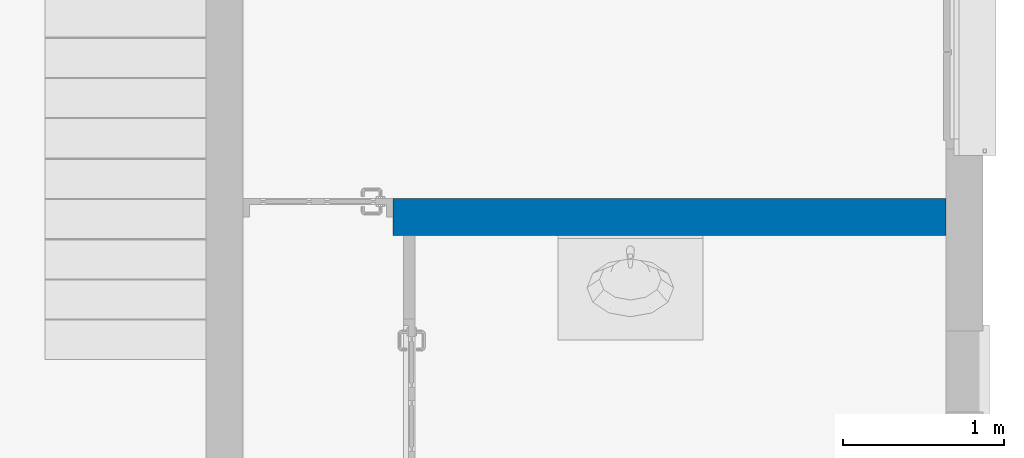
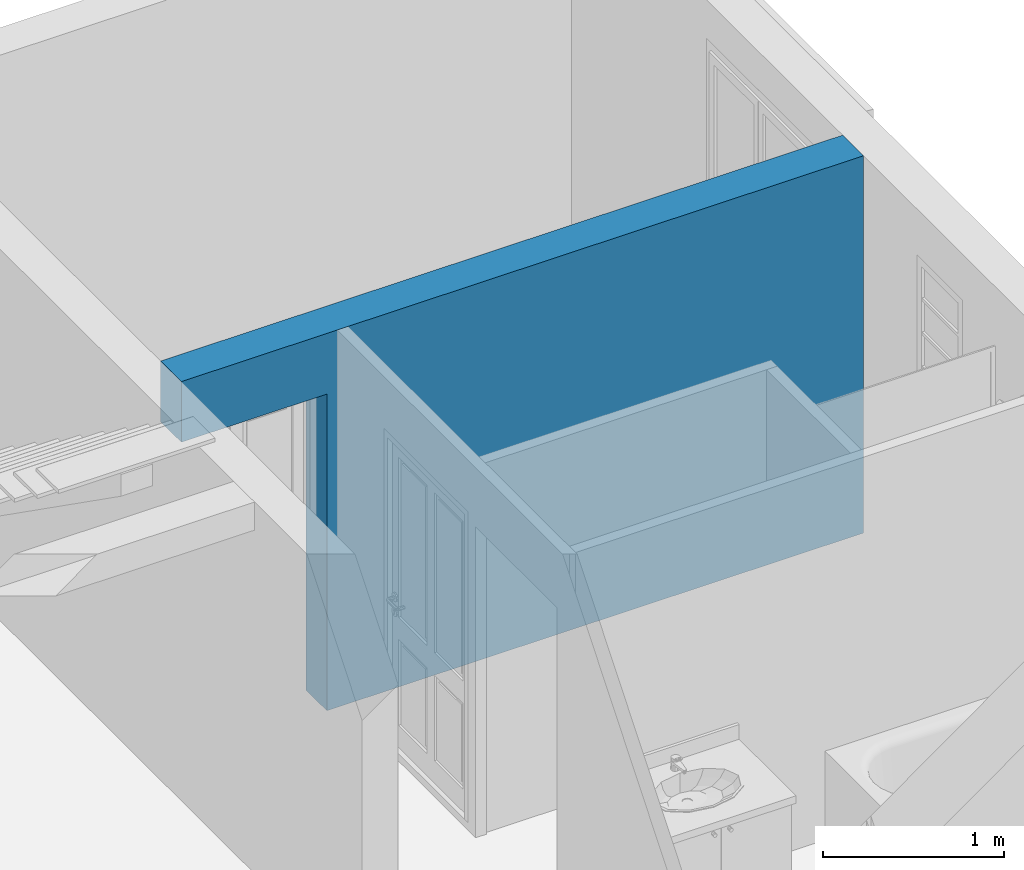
# One storey, part 6 of 17: 1 wall, 1 opening.
"""IFC2X3 building model written with IfcOpenShell, lengths in metres."""

import ifcopenshell
import ifcopenshell.guid

model = None  # the IFC model being written
_history = None  # IfcOwnerHistory: only IFC2X3 demands one
_inside = {}  # id of a spatial element -> (the spatial element, [elements in it])
_under = {}  # id of a project, library or spatial element -> (it, [spatial elements below it])
_declared = {}  # id of a project -> (the project, [libraries it declares])
_typed = {}  # id of a type object -> (the type object, [elements of that type])
_made_of = {}  # id of a material, layer set ... -> (it, [elements and type objects made of it])


def new_model(schema):
    """Start an empty IFC model of exactly this schema.

    Asked for "IFC4X3", IfcOpenShell would pick the latest addendum, in which some entities
    have other attributes; the version numbers below select the first issue.
    IFC2X3 requires an IfcOwnerHistory on every rooted entity: one is made here for all.
    """
    global model, _history
    if schema == "IFC4X3":
        model = ifcopenshell.file(schema_version=(4, 3, 0, 0))
    else:
        model = ifcopenshell.file(schema=schema)
    _inside.clear()
    _under.clear()
    _declared.clear()
    _typed.clear()
    _made_of.clear()
    _history = None
    if model.schema == "IFC2X3":
        org = make("IfcOrganization", Name="unknown")
        user = make(
            "IfcPersonAndOrganization",
            ThePerson=make("IfcPerson", FamilyName="unknown"),
            TheOrganization=org,
        )
        app = make(
            "IfcApplication",
            ApplicationDeveloper=org,
            Version="unknown",
            ApplicationFullName="unknown",
            ApplicationIdentifier="unknown",
        )
        _history = make(
            "IfcOwnerHistory",
            OwningUser=user,
            OwningApplication=app,
            ChangeAction="ADDED",
            CreationDate=0,
        )
    return model


def make(cls, **values):
    """One entity of the class cls with the attributes given. An attribute that is None is left unset."""
    return model.create_entity(
        cls, **{name: value for name, value in values.items() if value is not None}
    )


def entity(cls, *values):
    """Any entity or typed value of the class cls, its attributes in the order of the schema. None: left unset."""
    e = model.create_entity(cls)
    for i, value in enumerate(values):
        if value is not None:
            e[i] = value
    return e


def rooted(cls, **values):
    """An entity with a GlobalId (a new one), such as an element, a storey or a relation."""
    return make(cls, GlobalId=ifcopenshell.guid.new(), OwnerHistory=_history, **values)


def si_unit(unit_type, name, prefix=None):
    """IfcSIUnit, for example si_unit("LENGTHUNIT", "METRE", prefix="MILLI")."""
    return make("IfcSIUnit", UnitType=unit_type, Prefix=prefix, Name=name)


def converted_unit(unit_type, name, factor, base, dimensions=None, offset=None):
    """IfcConversionBasedUnit, such as the inch: factor (a typed value) times the base unit."""
    return make(
        "IfcConversionBasedUnit"
        if offset is None
        else "IfcConversionBasedUnitWithOffset",
        ConversionOffset=offset,
        Dimensions=None
        if dimensions is None
        else entity("IfcDimensionalExponents", *dimensions),
        UnitType=unit_type,
        Name=name,
        ConversionFactor=make(
            "IfcMeasureWithUnit", ValueComponent=factor, UnitComponent=base
        ),
    )


def derived_unit(unit_type, elements):
    """IfcDerivedUnit: a product of units, each with its exponent."""
    return make(
        "IfcDerivedUnit",
        Elements=[
            make("IfcDerivedUnitElement", Unit=unit, Exponent=power)
            for unit, power in elements
        ],
        UnitType=unit_type,
    )


def money_unit(currency):
    """IfcMonetaryUnit."""
    return make("IfcMonetaryUnit", Currency=currency)


def assignment(units):
    """IfcUnitAssignment: the units of a project."""
    return None if units is None else make("IfcUnitAssignment", Units=units)


def point(xyz):
    """IfcCartesianPoint."""
    return None if xyz is None else make("IfcCartesianPoint", Coordinates=xyz)


def direction(xyz):
    """IfcDirection."""
    return None if xyz is None else make("IfcDirection", DirectionRatios=xyz)


def frame(location, z_axis=None, x_axis=None):
    """IfcAxis2Placement3D, a coordinate frame: its origin and axes. An axis left out is left unset."""
    return make(
        "IfcAxis2Placement3D",
        Location=point(location),
        Axis=direction(z_axis),
        RefDirection=direction(x_axis),
    )


def frame_2d(location, x_axis=None):
    """IfcAxis2Placement2D, a coordinate frame in the plane: its origin and x axis."""
    return make(
        "IfcAxis2Placement2D", Location=point(location), RefDirection=direction(x_axis)
    )


def origin_with_axes():
    """The frame at (0, 0, 0) with the z axis (0, 0, 1) and the x axis (1, 0, 0) written out."""
    return frame((0.0, 0.0, 0.0), z_axis=(0.0, 0.0, 1.0), x_axis=(1.0, 0.0, 0.0))


def origin_2d_with_axis():
    """The frame at (0, 0) in the plane with the x axis (1, 0) written out."""
    return frame_2d((0.0, 0.0), x_axis=(1.0, 0.0))


def place(relative_to, where):
    """IfcLocalPlacement: puts the frame where relative to a parent placement (None: the world)."""
    return make(
        "IfcLocalPlacement", PlacementRelTo=relative_to, RelativePlacement=where
    )


def context(
    kind, dimensions, precision=None, world=None, true_north=None, identifier=None
):
    """IfcGeometricRepresentationContext, for example the 3D "Model" context."""
    return make(
        "IfcGeometricRepresentationContext",
        ContextIdentifier=identifier,
        ContextType=kind,
        CoordinateSpaceDimension=dimensions,
        Precision=precision,
        WorldCoordinateSystem=world,
        TrueNorth=true_north,
    )


def subcontext(parent, identifier, kind, view, scale=None):
    """IfcGeometricRepresentationSubContext, for example "Body" below "Model"."""
    return make(
        "IfcGeometricRepresentationSubContext",
        ContextIdentifier=identifier,
        ContextType=kind,
        ParentContext=parent,
        TargetScale=scale,
        TargetView=view,
    )


def project(units=None, contexts=None):
    """IfcProject with its units and contexts."""
    return rooted(
        "IfcProject",
        Name="project",
        RepresentationContexts=contexts,
        UnitsInContext=assignment(units),
    )


def spatial(cls, under=None, at=None, **own):
    """A site, building, storey or space (cls), placed at a placement, below another one or the project."""
    s = rooted(cls, ObjectPlacement=at, **own)
    if under is not None:
        _under.setdefault(under.id(), (under, []))[1].append(s)
    return s


def polyline(points):
    """IfcPolyline through the points."""
    return make("IfcPolyline", Points=[point(p) for p in points])


def profile(cls, at=None, kind="AREA", **sizes):
    """A parametric profile (cls). Its sizes go by their IFC names, for example OverallWidth=200.0."""
    return make(cls, ProfileType=kind, Position=at, **sizes)


def rectangle(**sizes):
    """IfcRectangleProfileDef."""
    return profile("IfcRectangleProfileDef", **sizes)


def outline(outer, holes=None, kind="AREA"):
    """IfcArbitraryClosedProfileDef: a profile drawn as a closed curve; with holes, ...WithVoids."""
    if holes is None:
        return make("IfcArbitraryClosedProfileDef", ProfileType=kind, OuterCurve=outer)
    return make(
        "IfcArbitraryProfileDefWithVoids",
        ProfileType=kind,
        OuterCurve=outer,
        InnerCurves=holes,
    )


def extrude(swept, where, along, depth):
    """IfcExtrudedAreaSolid: the profile swept, set in the frame where, extruded along a direction by depth."""
    return make(
        "IfcExtrudedAreaSolid",
        SweptArea=swept,
        Position=where,
        ExtrudedDirection=direction(along),
        Depth=depth,
    )


def boolean(op, a, b):
    """IfcBooleanResult of two solids."""
    return make("IfcBooleanResult", Operator=op, FirstOperand=a, SecondOperand=b)


def faces_of(points, faces, orient=None, outer=None):
    """IfcFace entities. A face is a list of loops; a loop is a list of indices into points, from 0.

    orient and outer hold one flag for each loop. By default every Orientation is true, the
    first loop of a face is its IfcFaceOuterBound and the others are IfcFaceBound.
    """
    made = []
    for i, loops in enumerate(faces):
        bounds = []
        for j, loop in enumerate(loops):
            is_outer = j == 0 if outer is None else outer[i][j]
            bounds.append(
                make(
                    "IfcFaceOuterBound" if is_outer else "IfcFaceBound",
                    Bound=make("IfcPolyLoop", Polygon=[points[k] for k in loop]),
                    Orientation=True if orient is None else orient[i][j],
                )
            )
        made.append(make("IfcFace", Bounds=bounds))
    return made


def faceted_brep(points, faces, orient=None, outer=None, voids=None):
    """IfcFacetedBrep: a solid bounded by flat faces; with voids (closed shells), ...WithVoids."""
    shared = [point(p) for p in points]
    hull = make("IfcClosedShell", CfsFaces=faces_of(shared, faces, orient, outer))
    if voids is None:
        return make("IfcFacetedBrep", Outer=hull)
    return make(
        "IfcFacetedBrepWithVoids",
        Outer=hull,
        Voids=[
            make(cls, CfsFaces=faces_of(shared, fs, o, b)) for cls, fs, o, b in voids
        ],
    )


def shape(context_of_items, identifier, shape_type, items):
    """IfcShapeRepresentation: the items that make up one representation, for example the "Body"."""
    return make(
        "IfcShapeRepresentation",
        ContextOfItems=context_of_items,
        RepresentationIdentifier=identifier,
        RepresentationType=shape_type,
        Items=items,
    )


def material(Name=None, Category=None):
    """IfcMaterial."""
    return make("IfcMaterial", Name=Name, Category=Category)


def made_of(thing, what):
    """Note that an element or type object is made of a material, layer set ...; save() writes the relation."""
    if what is not None:
        _made_of.setdefault(what.id(), (what, []))[1].append(thing)
    return thing


def type_object(cls, material=None, **own):
    """A type object (cls), such as IfcWallType, which elements share."""
    return made_of(rooted(cls, **own), material)


def element(
    cls,
    number,
    at=None,
    inside=None,
    cuts=None,
    type_object=None,
    material=None,
    context=None,
    identifier="Body",
    shape_type=None,
    held_by="IfcProductDefinitionShape",
    body=None,
    shapes=None,
    **own,
):
    """One element of the class cls, such as IfcWall. Its Tag is "e" and its number.

    at: its placement. inside: the storey or other place that contains it. cuts: it is an
    opening in that element (IfcRelVoidsElement). A single representation is given by context,
    identifier, shape_type and body (its items); several are given by shapes. held_by: the class
    of the entity that holds the representations. save() writes the other relations.
    """
    e = rooted(cls, Tag="e%d" % number, ObjectPlacement=at, **own)
    if body is not None:
        shapes = [shape(context, identifier, shape_type, body)]
    if shapes is not None:
        e.Representation = make(held_by, Representations=shapes)
    if inside is not None:
        _inside.setdefault(inside.id(), (inside, []))[1].append(e)
    if cuts is not None:
        rooted(
            "IfcRelVoidsElement", RelatingBuildingElement=cuts, RelatedOpeningElement=e
        )
    if type_object is not None:
        _typed.setdefault(type_object.id(), (type_object, []))[1].append(e)
    return made_of(e, material)


def aggregate(whole, parts):
    """IfcRelAggregates: a whole, such as a stair, and the parts it consists of."""
    return rooted("IfcRelAggregates", RelatingObject=whole, RelatedObjects=parts)


def save(model, path):
    """Write the relations noted so far, then the file.

    IfcRelAggregates (storeys below a building ...), IfcRelContainedInSpatialStructure (elements
    in a storey), IfcRelDefinesByType, IfcRelAssociatesMaterial and IfcRelDeclares: one each for
    every whole, place, type object, material and project.
    """
    for whole, parts in _under.values():
        aggregate(whole, parts)
    for where, things in _inside.values():
        rooted(
            "IfcRelContainedInSpatialStructure",
            RelatedElements=things,
            RelatingStructure=where,
        )
    for kind, things in _typed.values():
        rooted("IfcRelDefinesByType", RelatedObjects=things, RelatingType=kind)
    for what, things in _made_of.values():
        rooted("IfcRelAssociatesMaterial", RelatedObjects=things, RelatingMaterial=what)
    for by, libraries in _declared.values():
        rooted("IfcRelDeclares", RelatingContext=by, RelatedDefinitions=libraries)
    model.write(path)


model = new_model("IFC2X3")

# Units and contexts
model_context = context("Model", 3, precision=1e-05, world=origin_with_axes(), true_north=direction((0.0, 1.0)))
body_context = subcontext(model_context, "Body", "Model", "MODEL_VIEW")
ifc_project = project(units=[si_unit("LENGTHUNIT", "METRE"), si_unit("AREAUNIT", "SQUARE_METRE"), si_unit("VOLUMEUNIT", "CUBIC_METRE"), converted_unit("PLANEANGLEUNIT", "DEGREE", entity("IfcPlaneAngleMeasure", 0.0174532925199), si_unit("PLANEANGLEUNIT", "RADIAN"), dimensions=[0, 0, 0, 0, 0, 0, 0]), si_unit("SOLIDANGLEUNIT", "STERADIAN"), money_unit("CHF"), converted_unit("TIMEUNIT", "Year", entity("IfcTimeMeasure", 31556926.0), si_unit("TIMEUNIT", "SECOND"), dimensions=[0, 0, 1, 0, 0, 0, 0]), si_unit("MASSUNIT", "GRAM", prefix="KILO"), si_unit("THERMODYNAMICTEMPERATUREUNIT", "DEGREE_CELSIUS"), si_unit("LUMINOUSINTENSITYUNIT", "LUMEN"), si_unit("ENERGYUNIT", "JOULE", prefix="MEGA"), derived_unit("THERMALCONDUCTANCEUNIT", [(si_unit("POWERUNIT", "WATT"), 1), (si_unit("LENGTHUNIT", "METRE"), -1), (si_unit("THERMODYNAMICTEMPERATUREUNIT", "KELVIN"), -1)]), derived_unit("SPECIFICHEATCAPACITYUNIT", [(si_unit("ENERGYUNIT", "JOULE"), 1), (si_unit("MASSUNIT", "GRAM", prefix="KILO"), -1), (si_unit("THERMODYNAMICTEMPERATUREUNIT", "KELVIN"), -1)]), derived_unit("MASSDENSITYUNIT", [(si_unit("MASSUNIT", "GRAM", prefix="KILO"), 1), (si_unit("VOLUMEUNIT", "CUBIC_METRE"), -1)])], contexts=[model_context])

# Site, building, storey
site_placement = place(None, origin_with_axes())
site = spatial("IfcSite", under=ifc_project, at=site_placement, Name="Site", CompositionType="ELEMENT")
building_placement = place(site_placement, origin_with_axes())
building = spatial("IfcBuilding", under=site, at=building_placement, Name="Bâtiment", CompositionType="ELEMENT")
storey_placement = place(building_placement, frame((0.0, 0.0, 3.0), z_axis=(0.0, 0.0, 1.0), x_axis=(1.0, 0.0, 0.0)))
storey = spatial("IfcBuildingStorey", under=building, at=storey_placement, Name="RDJ", CompositionType="ELEMENT", Elevation=3.0)

# Wall, opening
ifc_material = material(Name="Hachure solide 2628782308")
wall_type = type_object("IfcWallType", Name="Hachure solide 2628782308 230", PredefinedType="NOTDEFINED")
wall_placement = place(storey_placement, frame((96.5635190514, 15.5803410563, -3.04), z_axis=(0.0, 0.0, 1.0), x_axis=(-1.0, 0.0, 0.0)))
wall = element("IfcWall", 1, at=wall_placement, inside=storey, type_object=wall_type, material=ifc_material, Name="MurExt-011", context=body_context, shape_type="CSG", body=[
    boolean("DIFFERENCE", boolean("DIFFERENCE", extrude(outline(polyline([(0.0, 0.0), (4.82, 0.0), (4.82, 0.23), (0.0, 0.23), (0.0, 0.0)])), origin_with_axes(), (0.0, 0.0, 1.0), 2.55), faceted_brep([(4.59, 0.0, 2.55), (4.58999999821, 0.0, 0.04), (3.66000007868, 7.56979687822e-08, 0.04), (3.66000007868, 7.56979687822e-08, 0.0), (4.82, 0.0, 0.0), (4.82, 0.0, 2.55), (4.59, 0.23, 2.55), (4.58999999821, 0.23, 0.04), (3.66000007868, 0.230000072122, 0.04), (3.66000007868, 0.230000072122, 0.0), (4.82, 0.23, 0.0), (4.82, 0.23, 2.55)], [[[0, 1, 2, 3, 4, 5]], [[1, 0, 6, 7]], [[2, 1, 7, 8]], [[3, 2, 8, 9]], [[3, 9, 10, 4]], [[5, 4, 10, 11]], [[6, 0, 5, 11]], [[7, 6, 11, 10, 9, 8]]])), faceted_brep([(0.23, 0.0, 0.0), (0.23, 0.0, 2.55), (0.0, 0.0, 2.55), (0.0, 0.0, 0.0), (0.23, 0.23, 2.55), (0.23, 0.23, 0.0), (0.0, 0.23, 2.55), (0.0, 0.23, 0.0)], [[[0, 1, 2, 3]], [[4, 1, 0, 5]], [[1, 4, 6, 2]], [[6, 7, 3, 2]], [[5, 0, 3, 7]], [[4, 5, 7, 6]]])),
])
opening_placement = place(wall_placement, frame((4.125, 0.0, 0.04), z_axis=(0.0, 0.0, 1.0), x_axis=(1.0, 0.0, 0.0)))
element("IfcOpeningElement", 2, at=opening_placement, cuts=wall, Name="Por-049", context=body_context, shape_type="SweptSolid", body=[
    extrude(rectangle(XDim=0.93, YDim=2.1, at=origin_2d_with_axis()), frame((0.0, 0.23, 1.05), z_axis=(0.0, 1.0, 0.0), x_axis=(1.0, 0.0, 0.0)), (0.0, 0.0, -1.0), 0.69),
])

save(model, "model.ifc")
